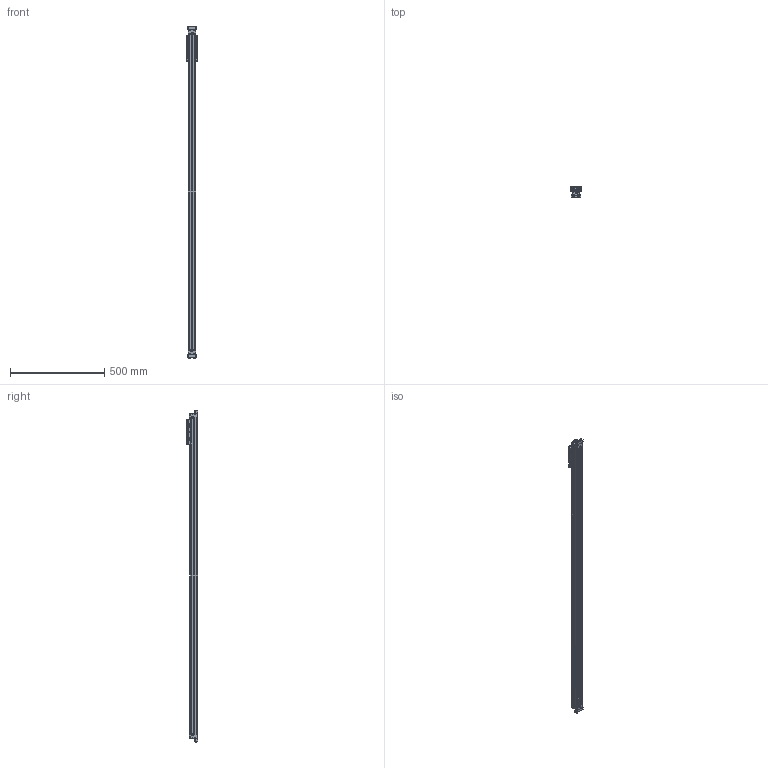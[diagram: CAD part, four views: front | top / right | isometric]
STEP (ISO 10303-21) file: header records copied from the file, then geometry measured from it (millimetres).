
FILE_DESCRIPTION (( 'STEP AP203' ), '1' );
FILE_NAME ('MXP25S_NP_SK60.000_MXP-486753-1.step', '2025-04-22T12:39:24', ( '' ), ( '' ), 'SwSTEP 2.0', 'SolidWorks 2024', '' );
FILE_SCHEMA (( 'CONFIG_CONTROL_DESIGN' ));
Length unit declared in the file: inch
Products named in the file (5): 81259500_MXP25S_NP_SK60.000_MXP-486753-1; 81259505_MXP25S_NP_SK60.000_MXP-486753-1; Base_MXP25S_NP_SK60.000_MXP-486753-1; MXP25S_NP_SK60.000_MXP-486753-1; 81259519_MXP25S_NP_SK60.000_MXP-486753-1
Assembly tree (5 placements, depth 2):
  MXP25S_NP_SK60.000_MXP-486753-1
    81259500_MXP25S_NP_SK60.000_MXP-486753-1
    81259505_MXP25S_NP_SK60.000_MXP-486753-1
    81259519_MXP25S_NP_SK60.000_MXP-486753-1  x2
    Base_MXP25S_NP_SK60.000_MXP-486753-1
Bounding box: 58.35 x 58.4 x 1759.36 mm (x, y, z)
Volume: 2007579.8 mm3; surface area: 602660.6 mm2
Topology: 5 solids, 16 shells, 1389 faces, 3403 edges, 2155 vertices
Faces by surface type: plane 831, cylinder 354, cone 100, torus 52, bspline 32, sphere 20
Full cylindrical faces by diameter (mm): 3 x4, 3.454 x8, 3.5 x4, 3.797 x8, 4.039 x2, 4.064 x2, 4.2 x4, 4.699 x2, 4.826 x8, 5.105 x14, 5.23 x4, 5.5 x10, 6 x4, 6.35 x6, 6.4 x2, 7 x4, 7.544 x2, 7.9 x4, 7.937 x4, 7.938 x4, 8.433 x6, 9.53 x4, 10.16 x8, 24.5 x1
Entity records: 38766 total; most frequent: CARTESIAN_POINT 7784, DIRECTION 6303, ORIENTED_EDGE 5986, EDGE_CURVE 2993, AXIS2_PLACEMENT_3D 2107, VECTOR 2089, LINE 2089, VERTEX_POINT 1990
